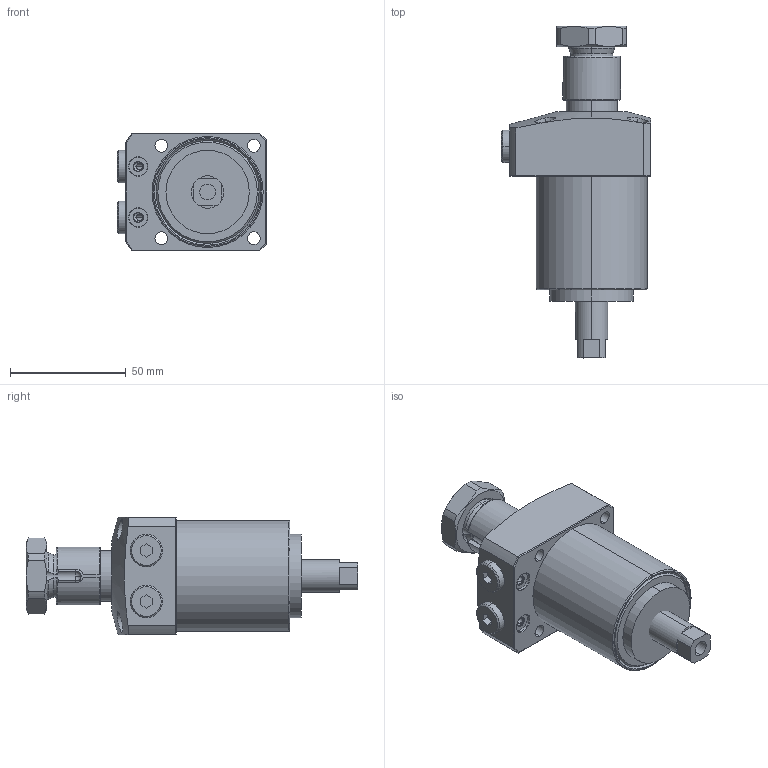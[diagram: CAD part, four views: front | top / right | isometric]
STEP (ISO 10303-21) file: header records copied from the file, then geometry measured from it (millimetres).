
FILE_DESCRIPTION (( 'STEP AP203' ), '1' );
FILE_NAME ('20360-CL-D.STEP', '2019-06-24T02:58:47', ( '微软用户' ), ( '微软中国' ), 'SwSTEP 2.0', 'SolidWorks 2014', '' );
FILE_SCHEMA (( 'CONFIG_CONTROL_DESIGN' ));
Length unit declared in the file: millimetre
Products named in the file (7): 20360-5^20360-CL-D; 20360-C-P-4^20360-CL-D; 20360-CL-D; 20360-1^20360-CL-D; 20360-2^20360-CL-D; 20360-3^20360-CL-D; 20360-4^20360-CL-D
Assembly tree (7 placements, depth 2):
  20360-CL-D
    20360-1^20360-CL-D
    20360-2^20360-CL-D
    20360-3^20360-CL-D
    20360-4^20360-CL-D
    20360-5^20360-CL-D
    20360-C-P-4^20360-CL-D  x2
Bounding box: 64.5 x 143.5 x 51 mm (x, y, z)
Volume: 206812.3 mm3; surface area: 39605 mm2
Topology: 7 solids, 7 shells, 242 faces, 573 edges, 363 vertices
Faces by surface type: plane 88, cylinder 81, cone 53, torus 18, sphere 2
Entity records: 8178 total; most frequent: CARTESIAN_POINT 2059, DIRECTION 1169, ORIENTED_EDGE 1086, EDGE_CURVE 543, AXIS2_PLACEMENT_3D 475, VERTEX_POINT 345, EDGE_LOOP 262, CIRCLE 236
